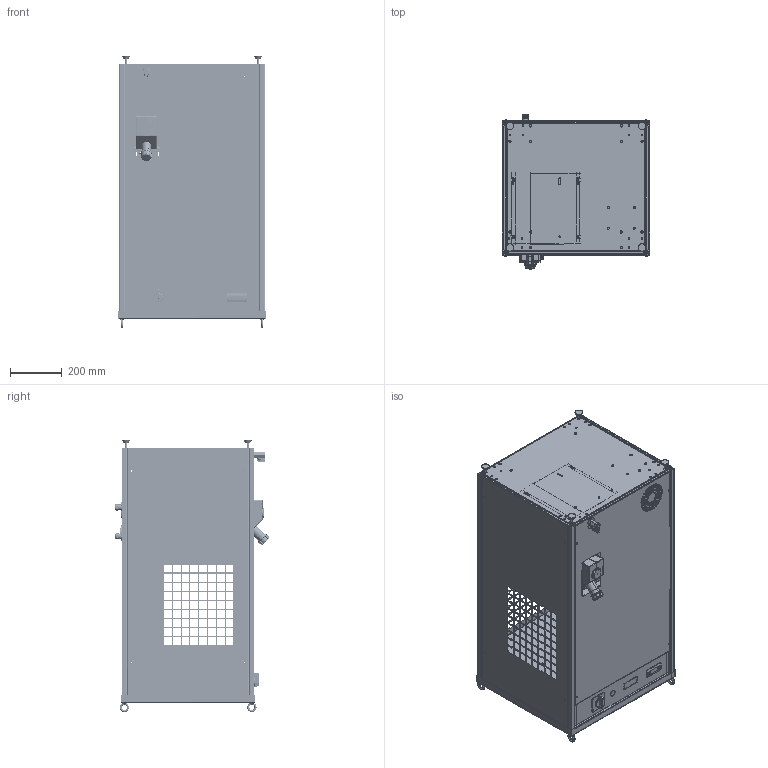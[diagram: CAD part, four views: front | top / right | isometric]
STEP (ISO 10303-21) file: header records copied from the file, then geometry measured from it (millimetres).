
FILE_DESCRIPTION (( 'STEP AP214' ), '1' );
FILE_NAME ('50-2C-00011.STEP', '2018-12-11T09:27:34', ( 'Utente' ), ( 'Microsoft' ), 'SwSTEP 2.0', 'SolidWorks 2013', '' );
FILE_SCHEMA (( 'AUTOMOTIVE_DESIGN' ));
Length unit declared in the file: millimetre
Products named in the file (29): VR-2C-00043_003; MA-N1-00001_MANOMETRO ACQUA 40mm 0-12 BAR; TA-RG-00041; VR-2C-00042_004; TE-EL-00007 - EW_971_230V; CR-2C-00049_002; PG11_PARTE; GOLFARE M8; TAPPO 1P  FEM ; 50-2C-00011; VA-A5-00001; IN-VI-00001; SE-RP-00040_000; INSERTO ESAG  1G; SE-RP-00040_CORPO; CR-2C-00051_000; AN-PI-00011 Antivibrante tipo piede M8x30; PG 13.5_Cable-Gland-1.209.1300.14-Nelco; VR-2C-00037_000; VR-2C-00047_001; VR-2C-00038_001; VR-2C-00040_001; PG 13.5_1_Socket-1.209.1300.14-Nelco; VR-2C-00055_001; PG 13.5_2_Nut-PA-Grey-24-24-27-Nelco; CR-2C-00044_001; ST-AT-00021_002; VR-2C-00039_003; SELETTORE_PICCOLO
Assembly tree (35 placements, depth 3):
  50-2C-00011
    CR-2C-00049_002
    VR-2C-00042_004
    VR-2C-00043_003
    VR-2C-00039_003
    CR-2C-00044_001
    VR-2C-00055_001
    VR-2C-00040_001
    VR-2C-00038_001
    VR-2C-00047_001
    VR-2C-00037_000
    AN-PI-00011 Antivibrante tipo piede M8x30  x4
    CR-2C-00051_000
    SE-RP-00040_000
      SE-RP-00040_CORPO
      INSERTO ESAG  1G
    IN-VI-00001
    VA-A5-00001
    TAPPO 1P  FEM 
    GOLFARE M8  x4
    TE-EL-00007 - EW_971_230V
    TA-RG-00041
    SELETTORE_PICCOLO
    ST-AT-00021_002  x2
    PG 13.5_Cable-Gland-1.209.1300.14-Nelco
      PG 13.5_2_Nut-PA-Grey-24-24-27-Nelco
      PG 13.5_1_Socket-1.209.1300.14-Nelco
    PG11_PARTE
    MA-N1-00001_MANOMETRO ACQUA 40mm 0-12 BAR
Bounding box: 570 x 597.67 x 1051.2 mm (x, y, z)
Volume: 6882158.4 mm3; surface area: 8249407.1 mm2
Topology: 126 solids, 129 shells, 6018 faces, 15876 edges, 10135 vertices
Faces by surface type: plane 3665, cylinder 1456, bspline 429, cone 281, torus 142, sphere 45
Entity records: 215147 total; most frequent: CARTESIAN_POINT 55558, ORIENTED_EDGE 31062, DIRECTION 28094, EDGE_CURVE 15537, VECTOR 11002, LINE 11002, VERTEX_POINT 9953, AXIS2_PLACEMENT_3D 8546
